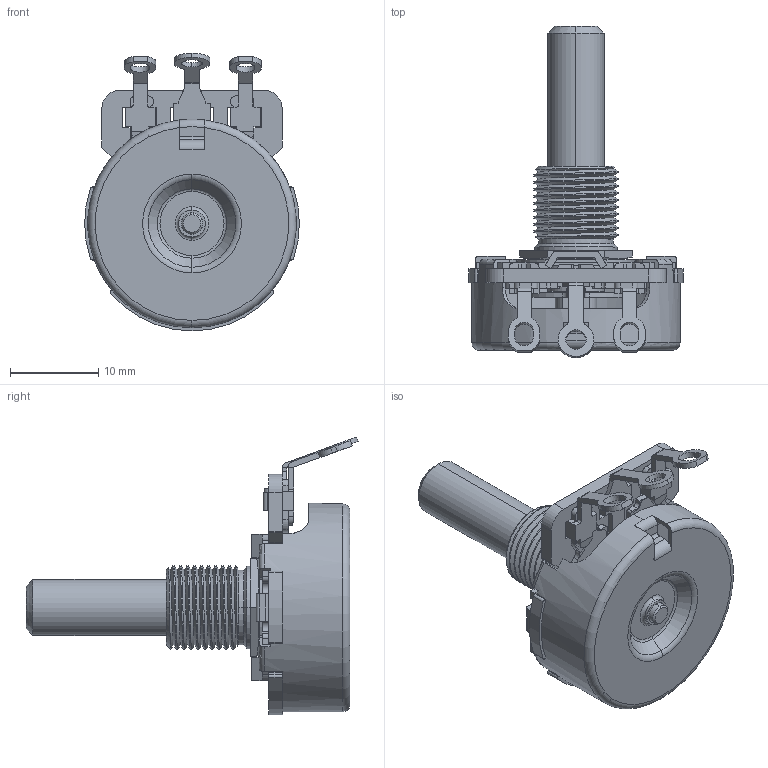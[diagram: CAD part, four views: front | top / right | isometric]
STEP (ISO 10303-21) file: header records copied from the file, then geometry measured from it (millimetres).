
FILE_DESCRIPTION (( 'STEP AP214' ), '1' );
FILE_NAME ('450GT38R504A1L.STEP', '2019-05-27T02:30:25', ( '' ), ( '' ), 'SwSTEP 2.0', 'SolidWorks 2019', '' );
FILE_SCHEMA (( 'AUTOMOTIVE_DESIGN' ));
Length unit declared in the file: millimetre
Products named in the file (10): 450A-104G; 45C-2Z-no lug; 450GT38R504A1L; 450 element; 450D-17 for T450AEDF; 450F-23 for T450AEDF; 2-450B-6; T450AEDF(For 104G); 45Q_18(for 450GT36K504B2L stamping); 450S-ER-11197-32
Assembly tree (10 placements, depth 3):
  450GT38R504A1L
    45Q_18(for 450GT36K504B2L stamping)
    T450AEDF(For 104G)
      450A-104G
      450D-17 for T450AEDF
      450 element
      450F-23 for T450AEDF  x2
    45C-2Z-no lug
    2-450B-6
    450S-ER-11197-32
Bounding box: 24.33 x 37.61 x 31.47 mm (x, y, z)
Volume: 3011.9 mm3; surface area: 6821.5 mm2
Topology: 9 solids, 9 shells, 688 faces, 1898 edges, 1234 vertices
Faces by surface type: plane 385, cylinder 245, torus 30, cone 26, bspline 2
Entity records: 21791 total; most frequent: CARTESIAN_POINT 5258, ORIENTED_EDGE 3430, DIRECTION 3379, EDGE_CURVE 1715, AXIS2_PLACEMENT_3D 1155, VERTEX_POINT 1117, LINE 1069, VECTOR 1069
